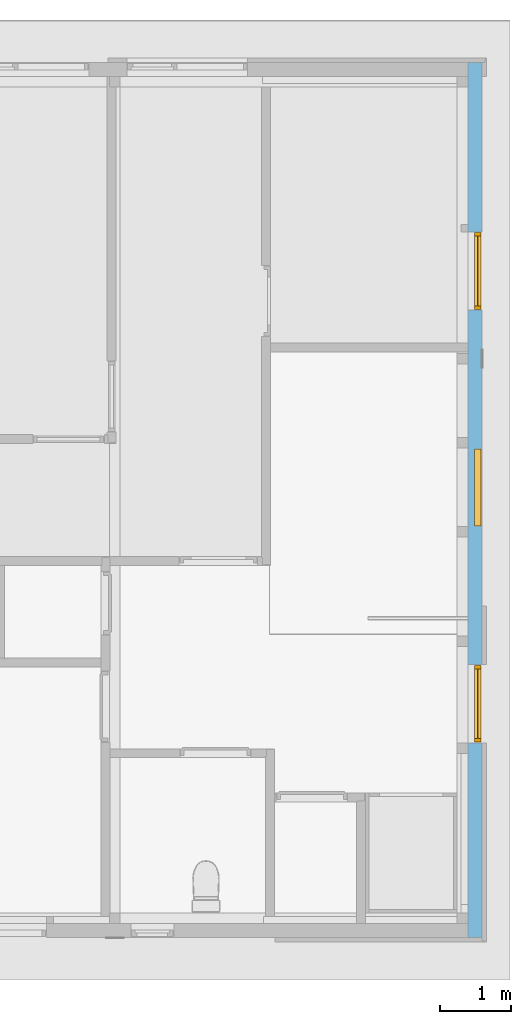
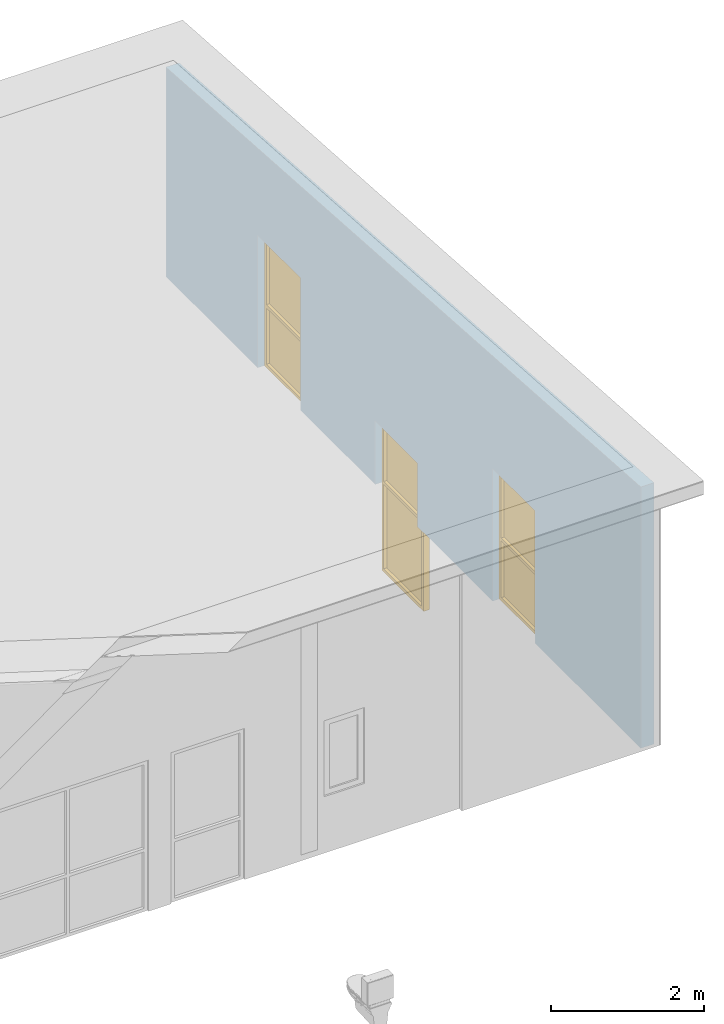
# One storey, part 31 of 37: 3 windows, 3 openings, plus 1 element that does not belong to this part.
"""IFC2X3 building model written with IfcOpenShell, lengths in millimetres."""

from ifc_helpers import new_model, entity, si_unit, converted_unit, frame, frame_2d, origin, origin_with_axes, place, context, subcontext, project, spatial, rectangle, extrude, clip, halfspace, faceted_brep, material, layer, layer_set, layer_usage, type_object, element, fill, save


model = new_model("IFC2X3")

# Units and contexts
model_context = context("Model", 3, precision=1e-05, world=origin())
plan_context = context("Plan", 3, precision=1e-05, world=origin())
body_context = subcontext(model_context, "Body", "Model", "MODEL_VIEW")
ifc_project = project(units=[si_unit("LENGTHUNIT", "METRE", prefix="MILLI"), converted_unit("PLANEANGLEUNIT", "DEGREE", entity("IfcPlaneAngleMeasure", 0.0174532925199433), si_unit("PLANEANGLEUNIT", "RADIAN"), dimensions=[0, 0, 0, 0, 0, 0, 0]), si_unit("AREAUNIT", "SQUARE_METRE"), si_unit("VOLUMEUNIT", "CUBIC_METRE")], contexts=[model_context, plan_context])

# Building, storey
building_placement = place(None, origin())
building = spatial("IfcBuilding", under=ifc_project, at=building_placement, Name="HEKF Administrasjonbygg", CompositionType="ELEMENT")
storey_placement = place(building_placement, frame((0.0, 0.0, 9900.0), z_axis=(0.0, 0.0, 1.0), x_axis=(1.0, 0.0, 0.0)))
storey = spatial("IfcBuildingStorey", under=building, at=storey_placement, Name="Plan 2", CompositionType="ELEMENT", Elevation=9900.0)

# Wall, openings, windows
ifc_material_1 = material(Name="Paroc 200")
ifc_layer = layer(ifc_material_1, 200.0)
ifc_layer_set = layer_set([ifc_layer])
ifc_layer_usage = layer_usage(ifc_layer_set, "AXIS2", "POSITIVE", 0.0)
wall_placement = place(storey_placement, frame((30000.0, 200.0, 0.0), z_axis=(0.0, 0.0, 1.0), x_axis=(0.0, -1.0, 0.0)))
wall = element("IfcWallStandardCase", 1, at=wall_placement, inside=storey, material=ifc_layer_usage, context=body_context, shape_type="Clipping", body=[
    clip(extrude(rectangle(XDim=12400.0, YDim=200.0, at=frame_2d((6200.000000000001, 100.0), x_axis=(1.0, 0.0))), origin_with_axes(), (0.0, 0.0, 1.0), 4163.33333333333), halfspace(frame((0.0, 0.0, 3336.666666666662), z_axis=(0.06651901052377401, -2.363229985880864e-18, -0.9977851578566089), x_axis=(0.997785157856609, 0.0, 0.06651901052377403)), True)),
])
opening_1_placement = place(wall_placement, frame((2400.482789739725, 0.0, 0.0), z_axis=(0.0, 1.0, 0.0), x_axis=(0.0, 0.0, 1.0)))
opening_1 = element("IfcOpeningElement", 2, at=opening_1_placement, cuts=wall, Name="Window opening", ObjectType="Opening", context=body_context, shape_type="SweptSolid", body=[
    extrude(rectangle(XDim=2110.0, YDim=1110.0, at=frame_2d((1055.0, 555.0), x_axis=(1.0, 0.0))), origin_with_axes(), (0.0, 0.0, 1.0), 200.0),
])
opening_2_placement = place(wall_placement, frame((5466.053432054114, 0.0, -1400.0), z_axis=(0.0, 1.0, 0.0), x_axis=(0.0, 0.0, 1.0)))
opening_2 = element("IfcOpeningElement", 3, at=opening_2_placement, cuts=wall, Name="Window opening", ObjectType="Opening", context=body_context, shape_type="SweptSolid", body=[
    extrude(rectangle(XDim=2410.0, YDim=1110.0, at=frame_2d((1205.0, 555.0), x_axis=(1.0, 0.0))), origin_with_axes(), (0.0, 0.0, 1.0), 200.0),
])
opening_3_placement = place(wall_placement, frame((8531.624074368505, 0.0, 0.0), z_axis=(0.0, 1.0, 0.0), x_axis=(0.0, 0.0, 1.0)))
opening_3 = element("IfcOpeningElement", 4, at=opening_3_placement, cuts=wall, Name="Window opening", ObjectType="Opening", context=body_context, shape_type="SweptSolid", body=[
    extrude(rectangle(XDim=2110.0, YDim=1110.0, at=frame_2d((1055.0, 555.0), x_axis=(1.0, 0.0))), origin_with_axes(), (0.0, 0.0, 1.0), 200.0),
])
ifc_material_2 = material()
window_style_1 = type_object("IfcWindowStyle", Name="V209", ConstructionType="NOTDEFINED", OperationType="USERDEFINED", ParameterTakesPrecedence=False, Sizeable=False)
window_1_placement = place(opening_1_placement, frame((0.0, 0.0, 0.0), z_axis=(1.0, 0.0, 0.0), x_axis=(0.0, 1.0, 0.0)))
window_1 = element("IfcWindow", 5, at=window_1_placement, inside=storey, type_object=window_style_1, material=ifc_material_2, Name="V209", OverallHeight=2110.0, OverallWidth=1110.0, context=body_context, shape_type="Brep", body=[
    faceted_brep([(1100.0, 93.99999999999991, 2100.000000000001), (1100.0, 94.00000000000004, 9.999999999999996), (1050.0, 94.00000000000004, 9.999999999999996), (1050.0, 93.99999999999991, 2100.000000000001), (1100.0, 186.0, 10.0), (1100.0, 185.9999999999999, 2100.000000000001), (1050.0, 185.9999999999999, 2100.000000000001), (1050.0, 186.0, 10.0), (1100.0, 94.00000000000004, 9.999999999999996), (1100.0, 93.99999999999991, 2100.000000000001), (1100.0, 185.9999999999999, 2100.000000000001), (1100.0, 186.0, 10.0), (1050.0, 94.00000000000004, 9.999999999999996), (1100.0, 94.00000000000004, 9.999999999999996), (1100.0, 186.0, 10.0), (1050.0, 186.0, 10.0), (1050.0, 93.99999999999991, 2100.000000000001), (1050.0, 94.00000000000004, 9.999999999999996), (1050.0, 186.0, 10.0), (1050.0, 185.9999999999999, 2100.000000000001), (1100.0, 93.99999999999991, 2100.000000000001), (1050.0, 93.99999999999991, 2100.000000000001), (1050.0, 185.9999999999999, 2100.000000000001), (1100.0, 185.9999999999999, 2100.000000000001)], [[[0, 1, 2, 3]], [[4, 5, 6, 7]], [[8, 9, 10, 11]], [[12, 13, 14, 15]], [[16, 17, 18, 19]], [[20, 21, 22, 23]]], orient=[[False], [False], [False], [False], [False], [False]]),
    faceted_brep([(60.0, 93.99999999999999, 2100.000000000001), (60.0, 94.00000000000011, 9.999999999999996), (10.0, 94.00000000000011, 9.999999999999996), (10.0, 93.99999999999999, 2100.000000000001), (60.0, 186.0, 10.0), (60.0, 185.9999999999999, 2100.000000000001), (10.0, 185.9999999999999, 2100.000000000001), (10.0, 186.0, 10.0), (60.0, 94.00000000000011, 9.999999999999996), (60.0, 93.99999999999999, 2100.000000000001), (60.0, 185.9999999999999, 2100.000000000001), (60.0, 186.0, 10.0), (10.0, 94.00000000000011, 9.999999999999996), (60.0, 94.00000000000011, 9.999999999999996), (60.0, 186.0, 10.0), (10.0, 186.0, 10.0), (10.0, 93.99999999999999, 2100.000000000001), (10.0, 94.00000000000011, 9.999999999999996), (10.0, 186.0, 10.0), (10.0, 185.9999999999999, 2100.000000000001), (60.0, 93.99999999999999, 2100.000000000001), (10.0, 93.99999999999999, 2100.000000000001), (10.0, 185.9999999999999, 2100.000000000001), (60.0, 185.9999999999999, 2100.000000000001)], [[[0, 1, 2, 3]], [[4, 5, 6, 7]], [[8, 9, 10, 11]], [[12, 13, 14, 15]], [[16, 17, 18, 19]], [[20, 21, 22, 23]]], orient=[[False], [False], [False], [False], [False], [False]]),
    faceted_brep([(1050.0, 94.00000000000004, 60.0), (1050.0, 94.00000000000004, 9.999999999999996), (60.0, 94.00000000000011, 9.999999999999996), (60.0, 94.00000000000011, 60.0), (1050.0, 186.0, 10.0), (1050.0, 186.0, 60.0), (60.0, 186.0, 60.0), (60.0, 186.0, 10.0), (1050.0, 94.00000000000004, 9.999999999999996), (1050.0, 94.00000000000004, 60.0), (1050.0, 186.0, 60.0), (1050.0, 186.0, 10.0), (60.0, 94.00000000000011, 9.999999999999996), (1050.0, 94.00000000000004, 9.999999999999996), (1050.0, 186.0, 10.0), (60.0, 186.0, 10.0), (60.0, 94.00000000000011, 60.0), (60.0, 94.00000000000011, 9.999999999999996), (60.0, 186.0, 10.0), (60.0, 186.0, 60.0), (1050.0, 94.00000000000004, 60.0), (60.0, 94.00000000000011, 60.0), (60.0, 186.0, 60.0), (1050.0, 186.0, 60.0)], [[[0, 1, 2, 3]], [[4, 5, 6, 7]], [[8, 9, 10, 11]], [[12, 13, 14, 15]], [[16, 17, 18, 19]], [[20, 21, 22, 23]]], orient=[[False], [False], [False], [False], [False], [False]]),
    faceted_brep([(1050.0, 93.99999999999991, 2100.000000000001), (1050.0, 93.99999999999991, 2050.000000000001), (60.0, 93.99999999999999, 2050.000000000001), (60.0, 93.99999999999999, 2100.000000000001), (1050.0, 185.9999999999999, 2050.000000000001), (1050.0, 185.9999999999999, 2100.000000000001), (60.0, 185.9999999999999, 2100.000000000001), (60.0, 185.9999999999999, 2050.000000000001), (1050.0, 93.99999999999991, 2050.000000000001), (1050.0, 93.99999999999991, 2100.000000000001), (1050.0, 185.9999999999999, 2100.000000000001), (1050.0, 185.9999999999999, 2050.000000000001), (60.0, 93.99999999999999, 2050.000000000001), (1050.0, 93.99999999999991, 2050.000000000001), (1050.0, 185.9999999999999, 2050.000000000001), (60.0, 185.9999999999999, 2050.000000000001), (60.0, 93.99999999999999, 2100.000000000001), (60.0, 93.99999999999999, 2050.000000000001), (60.0, 185.9999999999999, 2050.000000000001), (60.0, 185.9999999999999, 2100.000000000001), (1050.0, 93.99999999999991, 2100.000000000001), (60.0, 93.99999999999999, 2100.000000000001), (60.0, 185.9999999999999, 2100.000000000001), (1050.0, 185.9999999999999, 2100.000000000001)], [[[0, 1, 2, 3]], [[4, 5, 6, 7]], [[8, 9, 10, 11]], [[12, 13, 14, 15]], [[16, 17, 18, 19]], [[20, 21, 22, 23]]], orient=[[False], [False], [False], [False], [False], [False]]),
    faceted_brep([(1050.0, 93.99999999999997, 1010.0), (1050.0, 93.99999999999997, 960.0), (60.0, 94.00000000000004, 960.0), (60.0, 94.00000000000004, 1010.0), (1050.0, 185.9999999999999, 960.0), (1050.0, 185.9999999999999, 1010.0), (60.0, 186.0, 1010.0), (60.0, 186.0, 960.0), (1050.0, 93.99999999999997, 960.0), (1050.0, 93.99999999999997, 1010.0), (1050.0, 185.9999999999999, 1010.0), (1050.0, 185.9999999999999, 960.0), (60.0, 94.00000000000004, 960.0), (1050.0, 93.99999999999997, 960.0), (1050.0, 185.9999999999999, 960.0), (60.0, 186.0, 960.0), (60.0, 94.00000000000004, 1010.0), (60.0, 94.00000000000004, 960.0), (60.0, 186.0, 960.0), (60.0, 186.0, 1010.0), (1050.0, 93.99999999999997, 1010.0), (60.0, 94.00000000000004, 1010.0), (60.0, 186.0, 1010.0), (1050.0, 185.9999999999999, 1010.0)], [[[0, 1, 2, 3]], [[4, 5, 6, 7]], [[8, 9, 10, 11]], [[12, 13, 14, 15]], [[16, 17, 18, 19]], [[20, 21, 22, 23]]], orient=[[False], [False], [False], [False], [False], [False]]),
    faceted_brep([(1050.0, 140.0, 60.00000000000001), (60.0, 140.0000000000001, 60.00000000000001), (60.0, 140.0, 960.0), (1050.0, 139.9999999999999, 960.0), (1050.0, 141.0, 60.00000000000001), (1050.0, 140.9999999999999, 960.0), (60.0, 141.0, 960.0), (60.0, 141.0000000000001, 60.00000000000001), (1050.0, 140.0, 60.00000000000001), (1050.0, 141.0, 60.00000000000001), (60.0, 141.0000000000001, 60.00000000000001), (60.0, 140.0000000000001, 60.00000000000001), (60.0, 140.0000000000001, 60.00000000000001), (60.0, 141.0000000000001, 60.00000000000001), (60.0, 141.0, 960.0), (60.0, 140.0, 960.0), (60.0, 140.0, 960.0), (60.0, 141.0, 960.0), (1050.0, 140.9999999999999, 960.0), (1050.0, 139.9999999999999, 960.0), (1050.0, 139.9999999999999, 960.0), (1050.0, 140.9999999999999, 960.0), (1050.0, 141.0, 60.00000000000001), (1050.0, 140.0, 60.00000000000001)], [[[0, 1, 2, 3]], [[4, 5, 6, 7]], [[8, 9, 10, 11]], [[12, 13, 14, 15]], [[16, 17, 18, 19]], [[20, 21, 22, 23]]], orient=[[False], [False], [False], [False], [False], [False]]),
    faceted_brep([(1050.0, 139.9999999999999, 1010.0), (60.0, 140.0, 1010.0), (60.0, 139.9999999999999, 2050.0), (1050.0, 139.9999999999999, 2050.0), (1050.0, 140.9999999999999, 1010.0), (1050.0, 140.9999999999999, 2050.0), (60.0, 140.9999999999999, 2050.0), (60.0, 141.0, 1010.0), (1050.0, 139.9999999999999, 1010.0), (1050.0, 140.9999999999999, 1010.0), (60.0, 141.0, 1010.0), (60.0, 140.0, 1010.0), (60.0, 140.0, 1010.0), (60.0, 141.0, 1010.0), (60.0, 140.9999999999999, 2050.0), (60.0, 139.9999999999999, 2050.0), (60.0, 139.9999999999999, 2050.0), (60.0, 140.9999999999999, 2050.0), (1050.0, 140.9999999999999, 2050.0), (1050.0, 139.9999999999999, 2050.0), (1050.0, 139.9999999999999, 2050.0), (1050.0, 140.9999999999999, 2050.0), (1050.0, 140.9999999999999, 1010.0), (1050.0, 139.9999999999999, 1010.0)], [[[0, 1, 2, 3]], [[4, 5, 6, 7]], [[8, 9, 10, 11]], [[12, 13, 14, 15]], [[16, 17, 18, 19]], [[20, 21, 22, 23]]], orient=[[False], [False], [False], [False], [False], [False]]),
])
fill(opening_1, window_1)
ifc_material_3 = material()
window_style_2 = type_object("IfcWindowStyle", Name="V209", ConstructionType="NOTDEFINED", OperationType="USERDEFINED", ParameterTakesPrecedence=False, Sizeable=False)
window_2_placement = place(opening_2_placement, frame((0.0, 0.0, 0.0), z_axis=(1.0, 0.0, 0.0), x_axis=(0.0, 1.0, 0.0)))
window_2 = element("IfcWindow", 6, at=window_2_placement, inside=storey, type_object=window_style_2, material=ifc_material_3, Name="V209", OverallHeight=2410.0, OverallWidth=1110.0, context=body_context, shape_type="Brep", body=[
    faceted_brep([(1100.0, 93.9999999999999, 2400.000000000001), (1100.0, 94.00000000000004, 9.999999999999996), (1050.0, 94.00000000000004, 9.999999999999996), (1050.0, 93.9999999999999, 2400.000000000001), (1100.0, 186.0, 10.0), (1100.0, 185.9999999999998, 2400.000000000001), (1050.0, 185.9999999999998, 2400.000000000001), (1050.0, 186.0, 10.0), (1100.0, 94.00000000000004, 9.999999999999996), (1100.0, 93.9999999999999, 2400.000000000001), (1100.0, 185.9999999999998, 2400.000000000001), (1100.0, 186.0, 10.0), (1050.0, 94.00000000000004, 9.999999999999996), (1100.0, 94.00000000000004, 9.999999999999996), (1100.0, 186.0, 10.0), (1050.0, 186.0, 10.0), (1050.0, 93.9999999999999, 2400.000000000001), (1050.0, 94.00000000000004, 9.999999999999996), (1050.0, 186.0, 10.0), (1050.0, 185.9999999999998, 2400.000000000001), (1100.0, 93.9999999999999, 2400.000000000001), (1050.0, 93.9999999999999, 2400.000000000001), (1050.0, 185.9999999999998, 2400.000000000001), (1100.0, 185.9999999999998, 2400.000000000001)], [[[0, 1, 2, 3]], [[4, 5, 6, 7]], [[8, 9, 10, 11]], [[12, 13, 14, 15]], [[16, 17, 18, 19]], [[20, 21, 22, 23]]], orient=[[False], [False], [False], [False], [False], [False]]),
    faceted_brep([(60.0, 93.99999999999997, 2400.000000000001), (60.0, 94.00000000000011, 9.999999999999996), (10.0, 94.00000000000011, 9.999999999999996), (10.0, 93.99999999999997, 2400.000000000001), (60.0, 186.0, 10.0), (60.0, 185.9999999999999, 2400.000000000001), (10.0, 185.9999999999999, 2400.000000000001), (10.0, 186.0, 10.0), (60.0, 94.00000000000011, 9.999999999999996), (60.0, 93.99999999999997, 2400.000000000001), (60.0, 185.9999999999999, 2400.000000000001), (60.0, 186.0, 10.0), (10.0, 94.00000000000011, 9.999999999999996), (60.0, 94.00000000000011, 9.999999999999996), (60.0, 186.0, 10.0), (10.0, 186.0, 10.0), (10.0, 93.99999999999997, 2400.000000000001), (10.0, 94.00000000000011, 9.999999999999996), (10.0, 186.0, 10.0), (10.0, 185.9999999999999, 2400.000000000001), (60.0, 93.99999999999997, 2400.000000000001), (10.0, 93.99999999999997, 2400.000000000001), (10.0, 185.9999999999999, 2400.000000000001), (60.0, 185.9999999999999, 2400.000000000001)], [[[0, 1, 2, 3]], [[4, 5, 6, 7]], [[8, 9, 10, 11]], [[12, 13, 14, 15]], [[16, 17, 18, 19]], [[20, 21, 22, 23]]], orient=[[False], [False], [False], [False], [False], [False]]),
    faceted_brep([(1050.0, 94.00000000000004, 60.0), (1050.0, 94.00000000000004, 9.999999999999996), (60.0, 94.00000000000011, 9.999999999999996), (60.0, 94.00000000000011, 60.0), (1050.0, 186.0, 10.0), (1050.0, 186.0, 60.0), (60.0, 186.0, 60.0), (60.0, 186.0, 10.0), (1050.0, 94.00000000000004, 9.999999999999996), (1050.0, 94.00000000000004, 60.0), (1050.0, 186.0, 60.0), (1050.0, 186.0, 10.0), (60.0, 94.00000000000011, 9.999999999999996), (1050.0, 94.00000000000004, 9.999999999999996), (1050.0, 186.0, 10.0), (60.0, 186.0, 10.0), (60.0, 94.00000000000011, 60.0), (60.0, 94.00000000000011, 9.999999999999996), (60.0, 186.0, 10.0), (60.0, 186.0, 60.0), (1050.0, 94.00000000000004, 60.0), (60.0, 94.00000000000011, 60.0), (60.0, 186.0, 60.0), (1050.0, 186.0, 60.0)], [[[0, 1, 2, 3]], [[4, 5, 6, 7]], [[8, 9, 10, 11]], [[12, 13, 14, 15]], [[16, 17, 18, 19]], [[20, 21, 22, 23]]], orient=[[False], [False], [False], [False], [False], [False]]),
    faceted_brep([(1050.0, 93.9999999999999, 2400.000000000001), (1050.0, 93.9999999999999, 2350.000000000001), (60.0, 93.99999999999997, 2350.000000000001), (60.0, 93.99999999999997, 2400.000000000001), (1050.0, 185.9999999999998, 2350.000000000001), (1050.0, 185.9999999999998, 2400.000000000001), (60.0, 185.9999999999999, 2400.000000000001), (60.0, 185.9999999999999, 2350.000000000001), (1050.0, 93.9999999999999, 2350.000000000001), (1050.0, 93.9999999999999, 2400.000000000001), (1050.0, 185.9999999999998, 2400.000000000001), (1050.0, 185.9999999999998, 2350.000000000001), (60.0, 93.99999999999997, 2350.000000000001), (1050.0, 93.9999999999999, 2350.000000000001), (1050.0, 185.9999999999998, 2350.000000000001), (60.0, 185.9999999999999, 2350.000000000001), (60.0, 93.99999999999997, 2400.000000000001), (60.0, 93.99999999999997, 2350.000000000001), (60.0, 185.9999999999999, 2350.000000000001), (60.0, 185.9999999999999, 2400.000000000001), (1050.0, 93.9999999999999, 2400.000000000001), (60.0, 93.99999999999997, 2400.000000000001), (60.0, 185.9999999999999, 2400.000000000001), (1050.0, 185.9999999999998, 2400.000000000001)], [[[0, 1, 2, 3]], [[4, 5, 6, 7]], [[8, 9, 10, 11]], [[12, 13, 14, 15]], [[16, 17, 18, 19]], [[20, 21, 22, 23]]], orient=[[False], [False], [False], [False], [False], [False]]),
    faceted_brep([(1050.0, 93.99999999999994, 1450.000000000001), (1050.0, 93.99999999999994, 1400.000000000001), (60.0, 94.00000000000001, 1400.000000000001), (60.0, 94.00000000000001, 1450.000000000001), (1050.0, 185.9999999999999, 1400.000000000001), (1050.0, 185.9999999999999, 1450.000000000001), (60.0, 185.9999999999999, 1450.000000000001), (60.0, 185.9999999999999, 1400.000000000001), (1050.0, 93.99999999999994, 1400.000000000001), (1050.0, 93.99999999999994, 1450.000000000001), (1050.0, 185.9999999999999, 1450.000000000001), (1050.0, 185.9999999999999, 1400.000000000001), (60.0, 94.00000000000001, 1400.000000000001), (1050.0, 93.99999999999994, 1400.000000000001), (1050.0, 185.9999999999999, 1400.000000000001), (60.0, 185.9999999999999, 1400.000000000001), (60.0, 94.00000000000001, 1450.000000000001), (60.0, 94.00000000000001, 1400.000000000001), (60.0, 185.9999999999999, 1400.000000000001), (60.0, 185.9999999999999, 1450.000000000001), (1050.0, 93.99999999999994, 1450.000000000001), (60.0, 94.00000000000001, 1450.000000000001), (60.0, 185.9999999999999, 1450.000000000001), (1050.0, 185.9999999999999, 1450.000000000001)], [[[0, 1, 2, 3]], [[4, 5, 6, 7]], [[8, 9, 10, 11]], [[12, 13, 14, 15]], [[16, 17, 18, 19]], [[20, 21, 22, 23]]], orient=[[False], [False], [False], [False], [False], [False]]),
    faceted_brep([(1050.0, 140.0, 60.00000000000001), (60.0, 140.0000000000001, 60.00000000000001), (60.0, 140.0, 1400.000000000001), (1050.0, 139.9999999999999, 1400.000000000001), (1050.0, 141.0, 60.00000000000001), (1050.0, 140.9999999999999, 1400.000000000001), (60.0, 141.0, 1400.000000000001), (60.0, 141.0000000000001, 60.00000000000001), (1050.0, 140.0, 60.00000000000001), (1050.0, 141.0, 60.00000000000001), (60.0, 141.0000000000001, 60.00000000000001), (60.0, 140.0000000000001, 60.00000000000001), (60.0, 140.0000000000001, 60.00000000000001), (60.0, 141.0000000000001, 60.00000000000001), (60.0, 141.0, 1400.000000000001), (60.0, 140.0, 1400.000000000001), (60.0, 140.0, 1400.000000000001), (60.0, 141.0, 1400.000000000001), (1050.0, 140.9999999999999, 1400.000000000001), (1050.0, 139.9999999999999, 1400.000000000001), (1050.0, 139.9999999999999, 1400.000000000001), (1050.0, 140.9999999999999, 1400.000000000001), (1050.0, 141.0, 60.00000000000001), (1050.0, 140.0, 60.00000000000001)], [[[0, 1, 2, 3]], [[4, 5, 6, 7]], [[8, 9, 10, 11]], [[12, 13, 14, 15]], [[16, 17, 18, 19]], [[20, 21, 22, 23]]], orient=[[False], [False], [False], [False], [False], [False]]),
    faceted_brep([(1050.0, 139.9999999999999, 1450.000000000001), (60.0, 140.0, 1450.000000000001), (60.0, 139.9999999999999, 2350.000000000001), (1050.0, 139.9999999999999, 2350.000000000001), (1050.0, 140.9999999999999, 1450.000000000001), (1050.0, 140.9999999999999, 2350.000000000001), (60.0, 140.9999999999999, 2350.000000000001), (60.0, 141.0, 1450.000000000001), (1050.0, 139.9999999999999, 1450.000000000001), (1050.0, 140.9999999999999, 1450.000000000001), (60.0, 141.0, 1450.000000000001), (60.0, 140.0, 1450.000000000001), (60.0, 140.0, 1450.000000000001), (60.0, 141.0, 1450.000000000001), (60.0, 140.9999999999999, 2350.000000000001), (60.0, 139.9999999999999, 2350.000000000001), (60.0, 139.9999999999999, 2350.000000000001), (60.0, 140.9999999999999, 2350.000000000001), (1050.0, 140.9999999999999, 2350.000000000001), (1050.0, 139.9999999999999, 2350.000000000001), (1050.0, 139.9999999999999, 2350.000000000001), (1050.0, 140.9999999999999, 2350.000000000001), (1050.0, 140.9999999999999, 1450.000000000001), (1050.0, 139.9999999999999, 1450.000000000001)], [[[0, 1, 2, 3]], [[4, 5, 6, 7]], [[8, 9, 10, 11]], [[12, 13, 14, 15]], [[16, 17, 18, 19]], [[20, 21, 22, 23]]], orient=[[False], [False], [False], [False], [False], [False]]),
])
fill(opening_2, window_2)
ifc_material_4 = material()
window_style_3 = type_object("IfcWindowStyle", Name="V208", ConstructionType="NOTDEFINED", OperationType="USERDEFINED", ParameterTakesPrecedence=False, Sizeable=False)
window_3_placement = place(opening_3_placement, frame((0.0, 0.0, 0.0), z_axis=(1.0, 0.0, 0.0), x_axis=(0.0, 1.0, 0.0)))
window_3 = element("IfcWindow", 7, at=window_3_placement, inside=storey, type_object=window_style_3, material=ifc_material_4, Name="V208", OverallHeight=2110.0, OverallWidth=1110.0, context=body_context, shape_type="Brep", body=[
    faceted_brep([(1100.0, 93.99999999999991, 2100.000000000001), (1100.0, 94.00000000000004, 9.999999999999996), (1050.0, 94.00000000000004, 9.999999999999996), (1050.0, 93.99999999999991, 2100.000000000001), (1100.0, 186.0, 10.0), (1100.0, 185.9999999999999, 2100.000000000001), (1050.0, 185.9999999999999, 2100.000000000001), (1050.0, 186.0, 10.0), (1100.0, 94.00000000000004, 9.999999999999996), (1100.0, 93.99999999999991, 2100.000000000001), (1100.0, 185.9999999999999, 2100.000000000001), (1100.0, 186.0, 10.0), (1050.0, 94.00000000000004, 9.999999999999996), (1100.0, 94.00000000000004, 9.999999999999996), (1100.0, 186.0, 10.0), (1050.0, 186.0, 10.0), (1050.0, 93.99999999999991, 2100.000000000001), (1050.0, 94.00000000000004, 9.999999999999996), (1050.0, 186.0, 10.0), (1050.0, 185.9999999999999, 2100.000000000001), (1100.0, 93.99999999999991, 2100.000000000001), (1050.0, 93.99999999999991, 2100.000000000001), (1050.0, 185.9999999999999, 2100.000000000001), (1100.0, 185.9999999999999, 2100.000000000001)], [[[0, 1, 2, 3]], [[4, 5, 6, 7]], [[8, 9, 10, 11]], [[12, 13, 14, 15]], [[16, 17, 18, 19]], [[20, 21, 22, 23]]], orient=[[False], [False], [False], [False], [False], [False]]),
    faceted_brep([(60.0, 93.99999999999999, 2100.000000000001), (60.0, 94.00000000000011, 9.999999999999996), (10.0, 94.00000000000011, 9.999999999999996), (10.0, 93.99999999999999, 2100.000000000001), (60.0, 186.0, 10.0), (60.0, 185.9999999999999, 2100.000000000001), (10.0, 185.9999999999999, 2100.000000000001), (10.0, 186.0, 10.0), (60.0, 94.00000000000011, 9.999999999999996), (60.0, 93.99999999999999, 2100.000000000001), (60.0, 185.9999999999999, 2100.000000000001), (60.0, 186.0, 10.0), (10.0, 94.00000000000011, 9.999999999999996), (60.0, 94.00000000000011, 9.999999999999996), (60.0, 186.0, 10.0), (10.0, 186.0, 10.0), (10.0, 93.99999999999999, 2100.000000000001), (10.0, 94.00000000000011, 9.999999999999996), (10.0, 186.0, 10.0), (10.0, 185.9999999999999, 2100.000000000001), (60.0, 93.99999999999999, 2100.000000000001), (10.0, 93.99999999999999, 2100.000000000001), (10.0, 185.9999999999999, 2100.000000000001), (60.0, 185.9999999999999, 2100.000000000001)], [[[0, 1, 2, 3]], [[4, 5, 6, 7]], [[8, 9, 10, 11]], [[12, 13, 14, 15]], [[16, 17, 18, 19]], [[20, 21, 22, 23]]], orient=[[False], [False], [False], [False], [False], [False]]),
    faceted_brep([(1050.0, 94.00000000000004, 60.0), (1050.0, 94.00000000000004, 9.999999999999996), (60.0, 94.00000000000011, 9.999999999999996), (60.0, 94.00000000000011, 60.0), (1050.0, 186.0, 10.0), (1050.0, 186.0, 60.0), (60.0, 186.0, 60.0), (60.0, 186.0, 10.0), (1050.0, 94.00000000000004, 9.999999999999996), (1050.0, 94.00000000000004, 60.0), (1050.0, 186.0, 60.0), (1050.0, 186.0, 10.0), (60.0, 94.00000000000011, 9.999999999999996), (1050.0, 94.00000000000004, 9.999999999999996), (1050.0, 186.0, 10.0), (60.0, 186.0, 10.0), (60.0, 94.00000000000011, 60.0), (60.0, 94.00000000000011, 9.999999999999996), (60.0, 186.0, 10.0), (60.0, 186.0, 60.0), (1050.0, 94.00000000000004, 60.0), (60.0, 94.00000000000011, 60.0), (60.0, 186.0, 60.0), (1050.0, 186.0, 60.0)], [[[0, 1, 2, 3]], [[4, 5, 6, 7]], [[8, 9, 10, 11]], [[12, 13, 14, 15]], [[16, 17, 18, 19]], [[20, 21, 22, 23]]], orient=[[False], [False], [False], [False], [False], [False]]),
    faceted_brep([(1050.0, 93.99999999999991, 2100.000000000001), (1050.0, 93.99999999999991, 2050.000000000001), (60.0, 93.99999999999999, 2050.000000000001), (60.0, 93.99999999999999, 2100.000000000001), (1050.0, 185.9999999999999, 2050.000000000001), (1050.0, 185.9999999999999, 2100.000000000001), (60.0, 185.9999999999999, 2100.000000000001), (60.0, 185.9999999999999, 2050.000000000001), (1050.0, 93.99999999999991, 2050.000000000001), (1050.0, 93.99999999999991, 2100.000000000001), (1050.0, 185.9999999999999, 2100.000000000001), (1050.0, 185.9999999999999, 2050.000000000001), (60.0, 93.99999999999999, 2050.000000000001), (1050.0, 93.99999999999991, 2050.000000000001), (1050.0, 185.9999999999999, 2050.000000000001), (60.0, 185.9999999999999, 2050.000000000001), (60.0, 93.99999999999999, 2100.000000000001), (60.0, 93.99999999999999, 2050.000000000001), (60.0, 185.9999999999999, 2050.000000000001), (60.0, 185.9999999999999, 2100.000000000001), (1050.0, 93.99999999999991, 2100.000000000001), (60.0, 93.99999999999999, 2100.000000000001), (60.0, 185.9999999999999, 2100.000000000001), (1050.0, 185.9999999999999, 2100.000000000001)], [[[0, 1, 2, 3]], [[4, 5, 6, 7]], [[8, 9, 10, 11]], [[12, 13, 14, 15]], [[16, 17, 18, 19]], [[20, 21, 22, 23]]], orient=[[False], [False], [False], [False], [False], [False]]),
    faceted_brep([(1050.0, 93.99999999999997, 1010.0), (1050.0, 93.99999999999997, 960.0), (60.0, 94.00000000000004, 960.0), (60.0, 94.00000000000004, 1010.0), (1050.0, 185.9999999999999, 960.0), (1050.0, 185.9999999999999, 1010.0), (60.0, 186.0, 1010.0), (60.0, 186.0, 960.0), (1050.0, 93.99999999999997, 960.0), (1050.0, 93.99999999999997, 1010.0), (1050.0, 185.9999999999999, 1010.0), (1050.0, 185.9999999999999, 960.0), (60.0, 94.00000000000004, 960.0), (1050.0, 93.99999999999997, 960.0), (1050.0, 185.9999999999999, 960.0), (60.0, 186.0, 960.0), (60.0, 94.00000000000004, 1010.0), (60.0, 94.00000000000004, 960.0), (60.0, 186.0, 960.0), (60.0, 186.0, 1010.0), (1050.0, 93.99999999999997, 1010.0), (60.0, 94.00000000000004, 1010.0), (60.0, 186.0, 1010.0), (1050.0, 185.9999999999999, 1010.0)], [[[0, 1, 2, 3]], [[4, 5, 6, 7]], [[8, 9, 10, 11]], [[12, 13, 14, 15]], [[16, 17, 18, 19]], [[20, 21, 22, 23]]], orient=[[False], [False], [False], [False], [False], [False]]),
    faceted_brep([(1050.0, 140.0, 60.00000000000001), (60.0, 140.0000000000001, 60.00000000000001), (60.0, 140.0, 960.0), (1050.0, 139.9999999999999, 960.0), (1050.0, 141.0, 60.00000000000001), (1050.0, 140.9999999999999, 960.0), (60.0, 141.0, 960.0), (60.0, 141.0000000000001, 60.00000000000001), (1050.0, 140.0, 60.00000000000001), (1050.0, 141.0, 60.00000000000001), (60.0, 141.0000000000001, 60.00000000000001), (60.0, 140.0000000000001, 60.00000000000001), (60.0, 140.0000000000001, 60.00000000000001), (60.0, 141.0000000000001, 60.00000000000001), (60.0, 141.0, 960.0), (60.0, 140.0, 960.0), (60.0, 140.0, 960.0), (60.0, 141.0, 960.0), (1050.0, 140.9999999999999, 960.0), (1050.0, 139.9999999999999, 960.0), (1050.0, 139.9999999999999, 960.0), (1050.0, 140.9999999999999, 960.0), (1050.0, 141.0, 60.00000000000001), (1050.0, 140.0, 60.00000000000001)], [[[0, 1, 2, 3]], [[4, 5, 6, 7]], [[8, 9, 10, 11]], [[12, 13, 14, 15]], [[16, 17, 18, 19]], [[20, 21, 22, 23]]], orient=[[False], [False], [False], [False], [False], [False]]),
    faceted_brep([(1050.0, 139.9999999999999, 1010.0), (60.0, 140.0, 1010.0), (60.0, 139.9999999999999, 2050.0), (1050.0, 139.9999999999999, 2050.0), (1050.0, 140.9999999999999, 1010.0), (1050.0, 140.9999999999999, 2050.0), (60.0, 140.9999999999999, 2050.0), (60.0, 141.0, 1010.0), (1050.0, 139.9999999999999, 1010.0), (1050.0, 140.9999999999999, 1010.0), (60.0, 141.0, 1010.0), (60.0, 140.0, 1010.0), (60.0, 140.0, 1010.0), (60.0, 141.0, 1010.0), (60.0, 140.9999999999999, 2050.0), (60.0, 139.9999999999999, 2050.0), (60.0, 139.9999999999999, 2050.0), (60.0, 140.9999999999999, 2050.0), (1050.0, 140.9999999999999, 2050.0), (1050.0, 139.9999999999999, 2050.0), (1050.0, 139.9999999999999, 2050.0), (1050.0, 140.9999999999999, 2050.0), (1050.0, 140.9999999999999, 1010.0), (1050.0, 139.9999999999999, 1010.0)], [[[0, 1, 2, 3]], [[4, 5, 6, 7]], [[8, 9, 10, 11]], [[12, 13, 14, 15]], [[16, 17, 18, 19]], [[20, 21, 22, 23]]], orient=[[False], [False], [False], [False], [False], [False]]),
])
fill(opening_3, window_3)

save(model, "model.ifc")
